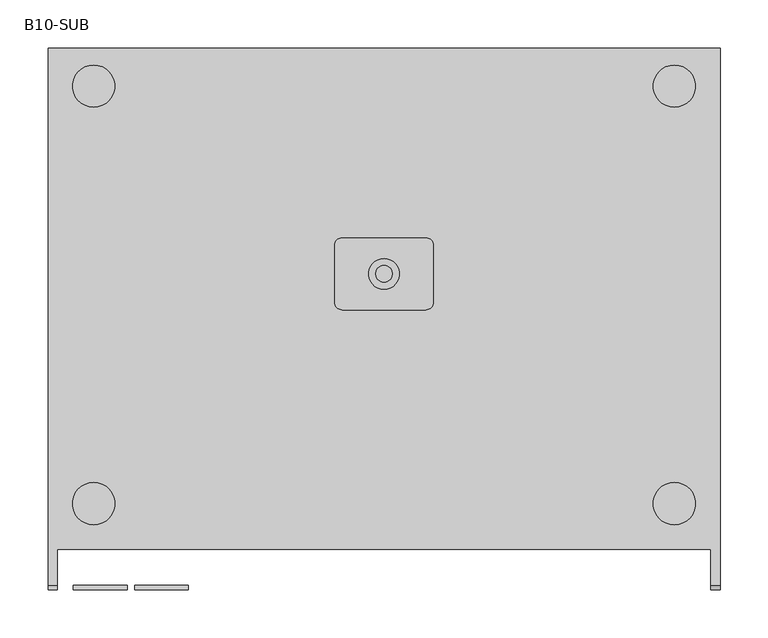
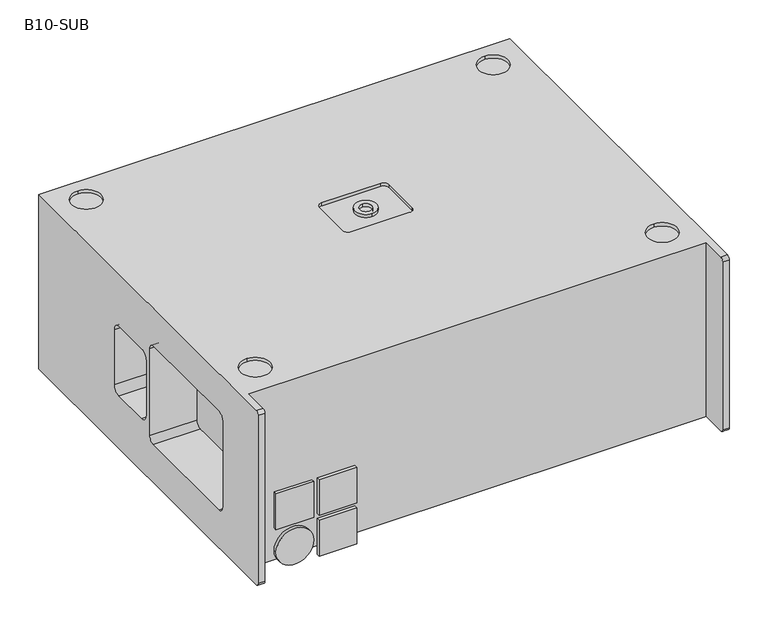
"""IFC4 building model written with IfcOpenShell, lengths in millimetres: proxy geometry, d&b B10-SUB : B10-SUB."""

from ifc_helpers import new_model, si_unit, point, frame, frame_2d, origin, origin_with_axes, place, context, project, spatial, polyline, circle_curve, trimmed, segment, composite_curve, outline, extrude, source, transform, mapped, element, save
from ifc_brep_helpers import plane_surface, cylinder_surface, revolved_surface, advanced_brep


def b10_sub_703a699e(model_context):
    return source(origin(), model_context, "Body", "SolidModel", [
        advanced_brep(
        [(2852.5, 504.2505973, 279.0), (2152.5, 504.2505973, 279.0), (2152.5, -55.7494027, 279.0), (2162.3, -55.7494027, 279.0), (2162.3, -18.2494027, 279.0), (2842.7, -18.2494027, 279.0), (2842.7, -55.7494027, 279.0), (2852.5, -55.7494027, 279.0), (2459.0, 306.2505973, 279.0), (2546.0, 306.2505973, 279.0), (2554.0, 298.2505973, 279.0), (2554.0, 239.2505973, 279.0), (2546.0, 231.2505973, 279.0), (2459.0, 231.2505973, 279.0), (2451.0, 239.2505973, 279.0), (2451.0, 298.2505973, 279.0), (2200.0, 7.2505973, 279.0), (2200.0, 51.2505973, 279.0), (2200.0, 442.4754449, 279.0), (2200.0, 486.4754449, 279.0), (2805.0, 7.2505973, 279.0), (2805.0, 51.2505973, 279.0), (2805.0, 442.4754449, 279.0), (2805.0, 486.4754449, 279.0), (2782.5, 218.2505973, 210.25), (2782.5, 209.2505973, 219.25), (2782.5, 40.2505973, 219.25), (2782.5, 31.2505973, 210.25), (2782.5, 31.2505973, 73.75), (2782.5, 40.2505973, 64.75), (2782.5, 209.2505973, 64.75), (2782.5, 218.2505973, 73.75), (2782.5, 309.2505973, 185.5), (2782.5, 298.2505973, 196.5), (2782.5, 239.2505973, 196.5), (2782.5, 228.2505973, 185.5), (2782.5, 228.2505973, 98.5), (2782.5, 239.2505973, 87.5), (2782.5, 298.2505973, 87.5), (2782.5, 309.2505973, 98.5), (2222.5, 209.2505973, 219.25), (2222.5, 218.2505973, 210.25), (2222.5, 218.2505973, 73.75), (2222.5, 209.2505973, 64.75), (2222.5, 40.2505973, 64.75), (2222.5, 31.2505973, 73.75), (2222.5, 31.2505973, 210.25), (2222.5, 40.2505973, 219.25), (2222.5, 298.2505973, 196.5), (2222.5, 309.2505973, 185.5), (2222.5, 309.2505973, 98.5), (2222.5, 298.2505973, 87.5), (2222.5, 239.2505973, 87.5), (2222.5, 228.2505973, 98.5), (2222.5, 228.2505973, 185.5), (2222.5, 239.2505973, 196.5), (2152.5, 504.2505973, 5.0), (2152.5, -55.7494027, 5.0), (2152.5, -60.7494027, 10.0), (2152.5, -60.7494027, 274.0), (2152.5, 209.2505973, 219.25), (2152.5, 40.2505973, 219.25), (2152.5, 31.2505973, 210.25), (2152.5, 31.2505973, 73.75), (2152.5, 40.2505973, 64.75), (2152.5, 209.2505973, 64.75), (2152.5, 218.2505973, 73.75), (2152.5, 218.2505973, 210.25), (2152.5, 298.2505973, 196.5), (2152.5, 239.2505973, 196.5), (2152.5, 228.2505973, 185.5), (2152.5, 228.2505973, 98.5), (2152.5, 239.2505973, 87.5), (2152.5, 298.2505973, 87.5), (2152.5, 309.2505973, 98.5), (2152.5, 309.2505973, 185.5), (2162.3, -18.2494027, 5.0), (2842.7, -18.2494027, 5.0), (2162.3, -60.7494027, 10.0), (2162.3, -60.7494027, 274.0), (2263.0, 499.2505973, 250.5), (2306.0, 499.2505973, 250.5), (2316.5, 499.2505973, 240.0), (2316.5, 499.2505973, 140.0), (2306.0, 499.2505973, 129.5), (2263.0, 499.2505973, 129.5), (2252.5, 499.2505973, 140.0), (2252.5, 499.2505973, 240.0), (2191.0, 499.2505973, 250.5), (2234.0, 499.2505973, 250.5), (2244.5, 499.2505973, 240.0), (2244.5, 499.2505973, 140.0), (2234.0, 499.2505973, 129.5), (2191.0, 499.2505973, 129.5), (2180.5, 499.2505973, 140.0), (2180.5, 499.2505973, 240.0), (2263.0, 504.2505973, 250.5), (2306.0, 504.2505973, 250.5), (2316.5, 504.2505973, 240.0), (2316.5, 504.2505973, 140.0), (2306.0, 504.2505973, 129.5), (2263.0, 504.2505973, 129.5), (2252.5, 504.2505973, 140.0), (2252.5, 504.2505973, 240.0), (2852.5, -55.7494027, 5.0), (2842.7, -55.7494027, 5.0), (2162.3, -55.7494027, 5.0), (2852.5, 504.2505973, 5.0), (2234.0, 504.2505973, 250.5), (2191.0, 504.2505973, 250.5), (2180.5, 504.2505973, 240.0), (2180.5, 504.2505973, 140.0), (2191.0, 504.2505973, 129.5), (2234.0, 504.2505973, 129.5), (2244.5, 504.2505973, 140.0), (2244.5, 504.2505973, 240.0), (2546.0, 306.2505973, 274.0), (2459.0, 306.2505973, 274.0), (2451.0, 298.2505973, 274.0), (2451.0, 239.2505973, 274.0), (2459.0, 231.2505973, 274.0), (2546.0, 231.2505973, 274.0), (2554.0, 239.2505973, 274.0), (2554.0, 298.2505973, 274.0), (2200.0, 51.2505973, 274.0), (2200.0, 7.2505973, 274.0), (2200.0, 486.4754449, 274.0), (2200.0, 442.4754449, 274.0), (2842.7, -60.7494027, 10.0), (2842.7, -60.7494027, 274.0), (2852.5, -60.7494027, 274.0), (2852.5, -60.7494027, 10.0), (2852.5, 209.2505973, 219.25), (2852.5, 218.2505973, 210.25), (2852.5, 218.2505973, 73.75), (2852.5, 209.2505973, 64.75), (2852.5, 40.2505973, 64.75), (2852.5, 31.2505973, 73.75), (2852.5, 31.2505973, 210.25), (2852.5, 40.2505973, 219.25), (2852.5, 298.2505973, 196.5), (2852.5, 309.2505973, 185.5), (2852.5, 309.2505973, 98.5), (2852.5, 298.2505973, 87.5), (2852.5, 239.2505973, 87.5), (2852.5, 228.2505973, 98.5), (2852.5, 228.2505973, 185.5), (2852.5, 239.2505973, 196.5), (2805.0, 7.2505973, 274.0), (2805.0, 51.2505973, 274.0), (2805.0, 442.4754449, 274.0), (2805.0, 486.4754449, 274.0)],
        [
            (0, 1),
            (1, 2),
            (2, 3),
            (3, 4),
            (4, 5),
            (5, 6),
            (6, 7),
            (7, 0),
            (8, 9),
            (9, 10, circle_curve(frame((2546.0, 298.2505973, 279.0), z_axis=(0.0, 0.0, -1.0), x_axis=(0.0, 1.0, 0.0)), 8.0)),
            (10, 11),
            (11, 12, circle_curve(frame((2546.0, 239.2505973, 279.0), z_axis=(0.0, 0.0, -1.0), x_axis=(0.0, 1.0, 0.0)), 8.0)),
            (12, 13),
            (13, 14, circle_curve(frame((2459.0, 239.2505973, 279.0), z_axis=(0.0, 0.0, -1.0), x_axis=(0.0, 1.0, 0.0)), 8.0)),
            (14, 15),
            (15, 8, circle_curve(frame((2459.0, 298.2505973, 279.0), z_axis=(0.0, 0.0, -1.0), x_axis=(0.0, 1.0, 0.0)), 8.0)),
            (16, 17, circle_curve(frame((2200.0, 29.2505973, 279.0), z_axis=(0.0, 0.0, -1.0), x_axis=(0.0, 1.0, 0.0)), 22.0)),
            (17, 16, circle_curve(frame((2200.0, 29.2505973, 279.0), z_axis=(0.0, 0.0, -1.0), x_axis=(0.0, 1.0, 0.0)), 22.0)),
            (18, 19, circle_curve(frame((2200.0, 464.4754449, 279.0), z_axis=(0.0, 0.0, -1.0), x_axis=(0.0, 1.0, 0.0)), 22.0)),
            (19, 18, circle_curve(frame((2200.0, 464.4754449, 279.0), z_axis=(0.0, 0.0, -1.0), x_axis=(0.0, 1.0, 0.0)), 22.0)),
            (20, 21, circle_curve(frame((2805.0, 29.2505973, 279.0), z_axis=(0.0, 0.0, -1.0), x_axis=(0.0, 1.0, 0.0)), 22.0)),
            (21, 20, circle_curve(frame((2805.0, 29.2505973, 279.0), z_axis=(0.0, 0.0, -1.0), x_axis=(0.0, 1.0, 0.0)), 22.0)),
            (22, 23, circle_curve(frame((2805.0, 464.4754449, 279.0), z_axis=(0.0, 0.0, -1.0), x_axis=(0.0, 1.0, 0.0)), 22.0)),
            (23, 22, circle_curve(frame((2805.0, 464.4754449, 279.0), z_axis=(0.0, 0.0, -1.0), x_axis=(0.0, 1.0, 0.0)), 22.0)),
            (24, 25, circle_curve(frame((2782.5, 209.2505973, 210.25), z_axis=(1.0, 0.0, 0.0), x_axis=(0.0, 0.0, 1.0)), 9.0)),
            (25, 26),
            (26, 27, circle_curve(frame((2782.5, 40.2505973, 210.25), z_axis=(1.0, 0.0, 0.0), x_axis=(0.0, 0.0, 1.0)), 9.0)),
            (27, 28),
            (28, 29, circle_curve(frame((2782.5, 40.2505973, 73.75), z_axis=(1.0, 0.0, 0.0), x_axis=(0.0, 0.0, 1.0)), 9.0)),
            (29, 30),
            (30, 31, circle_curve(frame((2782.5, 209.2505973, 73.75), z_axis=(1.0, 0.0, 0.0), x_axis=(0.0, 0.0, 1.0)), 9.0)),
            (31, 24),
            (32, 33, circle_curve(frame((2782.5, 298.2505973, 185.5), z_axis=(1.0, 0.0, 0.0), x_axis=(0.0, 0.0, 1.0)), 11.0)),
            (33, 34),
            (34, 35, circle_curve(frame((2782.5, 239.2505973, 185.5), z_axis=(1.0, 0.0, 0.0), x_axis=(0.0, 0.0, 1.0)), 11.0)),
            (35, 36),
            (36, 37, circle_curve(frame((2782.5, 239.2505973, 98.5), z_axis=(1.0, 0.0, 0.0), x_axis=(0.0, 0.0, 1.0)), 11.0)),
            (37, 38),
            (38, 39, circle_curve(frame((2782.5, 298.2505973, 98.5), z_axis=(1.0, 0.0, 0.0), x_axis=(0.0, 0.0, 1.0)), 11.0)),
            (39, 32),
            (40, 41, circle_curve(frame((2222.5, 209.2505973, 210.25), z_axis=(-1.0, 0.0, 0.0), x_axis=(0.0, 0.0, 1.0)), 9.0)),
            (41, 42),
            (42, 43, circle_curve(frame((2222.5, 209.2505973, 73.75), z_axis=(-1.0, 0.0, 0.0), x_axis=(0.0, 0.0, 1.0)), 9.0)),
            (43, 44),
            (44, 45, circle_curve(frame((2222.5, 40.2505973, 73.75), z_axis=(-1.0, 0.0, 0.0), x_axis=(0.0, 0.0, 1.0)), 9.0)),
            (45, 46),
            (46, 47, circle_curve(frame((2222.5, 40.2505973, 210.25), z_axis=(-1.0, 0.0, 0.0), x_axis=(0.0, 0.0, 1.0)), 9.0)),
            (47, 40),
            (48, 49, circle_curve(frame((2222.5, 298.2505973, 185.5), z_axis=(-1.0, 0.0, 0.0), x_axis=(0.0, 0.0, 1.0)), 11.0)),
            (49, 50),
            (50, 51, circle_curve(frame((2222.5, 298.2505973, 98.5), z_axis=(-1.0, 0.0, 0.0), x_axis=(0.0, 0.0, 1.0)), 11.0)),
            (51, 52),
            (52, 53, circle_curve(frame((2222.5, 239.2505973, 98.5), z_axis=(-1.0, 0.0, 0.0), x_axis=(0.0, 0.0, 1.0)), 11.0)),
            (53, 54),
            (54, 55, circle_curve(frame((2222.5, 239.2505973, 185.5), z_axis=(-1.0, 0.0, 0.0), x_axis=(0.0, 0.0, 1.0)), 11.0)),
            (55, 48),
            (1, 56),
            (56, 57),
            (57, 58, circle_curve(frame((2152.5, -55.7494027, 10.0), z_axis=(-1.0, 0.0, 0.0), x_axis=(0.0, 0.0, 1.0)), 5.0)),
            (58, 59),
            (59, 2, circle_curve(frame((2152.5, -55.7494027, 274.0), z_axis=(-1.0, 0.0, 0.0), x_axis=(0.0, 0.0, 1.0)), 5.0)),
            (60, 61),
            (61, 62, circle_curve(frame((2152.5, 40.2505973, 210.25), z_axis=(1.0, 0.0, 0.0), x_axis=(0.0, 0.0, 1.0)), 9.0)),
            (62, 63),
            (63, 64, circle_curve(frame((2152.5, 40.2505973, 73.75), z_axis=(1.0, 0.0, 0.0), x_axis=(0.0, 0.0, 1.0)), 9.0)),
            (64, 65),
            (65, 66, circle_curve(frame((2152.5, 209.2505973, 73.75), z_axis=(1.0, 0.0, 0.0), x_axis=(0.0, 0.0, 1.0)), 9.0)),
            (66, 67),
            (67, 60, circle_curve(frame((2152.5, 209.2505973, 210.25), z_axis=(1.0, 0.0, 0.0), x_axis=(0.0, 0.0, 1.0)), 9.0)),
            (68, 69),
            (69, 70, circle_curve(frame((2152.5, 239.2505973, 185.5), z_axis=(1.0, 0.0, 0.0), x_axis=(0.0, 0.0, 1.0)), 11.0)),
            (70, 71),
            (71, 72, circle_curve(frame((2152.5, 239.2505973, 98.5), z_axis=(1.0, 0.0, 0.0), x_axis=(0.0, 0.0, 1.0)), 11.0)),
            (72, 73),
            (73, 74, circle_curve(frame((2152.5, 298.2505973, 98.5), z_axis=(1.0, 0.0, 0.0), x_axis=(0.0, 0.0, 1.0)), 11.0)),
            (74, 75),
            (75, 68, circle_curve(frame((2152.5, 298.2505973, 185.5), z_axis=(1.0, 0.0, 0.0), x_axis=(0.0, 0.0, 1.0)), 11.0)),
            (4, 76),
            (76, 77),
            (77, 5),
            (67, 41),
            (40, 60),
            (66, 42),
            (65, 43),
            (64, 44),
            (63, 45),
            (62, 46),
            (61, 47),
            (58, 78),
            (78, 79),
            (79, 59),
            (80, 81),
            (81, 82, circle_curve(frame((2306.0, 499.2505973, 240.0), z_axis=(0.0, 1.0, 0.0), x_axis=(-1.0, 0.0, 0.0)), 10.5)),
            (82, 83),
            (83, 84, circle_curve(frame((2306.0, 499.2505973, 140.0), z_axis=(0.0, 1.0, 0.0), x_axis=(-1.0, 0.0, 0.0)), 10.5)),
            (84, 85),
            (85, 86, circle_curve(frame((2263.0, 499.2505973, 140.0), z_axis=(0.0, 1.0, 0.0), x_axis=(-1.0, 0.0, 0.0)), 10.5)),
            (86, 87),
            (87, 80, circle_curve(frame((2263.0, 499.2505973, 240.0), z_axis=(0.0, 1.0, 0.0), x_axis=(-1.0, 0.0, 0.0)), 10.5)),
            (88, 89),
            (89, 90, circle_curve(frame((2234.0, 499.2505973, 240.0), z_axis=(0.0, 1.0, 0.0), x_axis=(-1.0, 0.0, 0.0)), 10.5)),
            (90, 91),
            (91, 92, circle_curve(frame((2234.0, 499.2505973, 140.0), z_axis=(0.0, 1.0, 0.0), x_axis=(-1.0, 0.0, 0.0)), 10.5)),
            (92, 93),
            (93, 94, circle_curve(frame((2191.0, 499.2505973, 140.0), z_axis=(0.0, 1.0, 0.0), x_axis=(-1.0, 0.0, 0.0)), 10.5)),
            (94, 95),
            (95, 88, circle_curve(frame((2191.0, 499.2505973, 240.0), z_axis=(0.0, 1.0, 0.0), x_axis=(-1.0, 0.0, 0.0)), 10.5)),
            (80, 96),
            (96, 97),
            (97, 81),
            (97, 98, circle_curve(frame((2306.0, 504.2505973, 240.0), z_axis=(0.0, 1.0, 0.0), x_axis=(-1.0, 0.0, 0.0)), 10.5)),
            (98, 82),
            (98, 99),
            (99, 83),
            (99, 100, circle_curve(frame((2306.0, 504.2505973, 140.0), z_axis=(0.0, 1.0, 0.0), x_axis=(-1.0, 0.0, 0.0)), 10.5)),
            (100, 84),
            (100, 101),
            (101, 85),
            (101, 102, circle_curve(frame((2263.0, 504.2505973, 140.0), z_axis=(0.0, 1.0, 0.0), x_axis=(-1.0, 0.0, 0.0)), 10.5)),
            (102, 86),
            (102, 103),
            (103, 87),
            (103, 96, circle_curve(frame((2263.0, 504.2505973, 240.0), z_axis=(0.0, 1.0, 0.0), x_axis=(-1.0, 0.0, 0.0)), 10.5)),
            (104, 105),
            (105, 77),
            (76, 106),
            (106, 57),
            (56, 107),
            (107, 104),
            (0, 107),
            (108, 109),
            (109, 110, circle_curve(frame((2191.0, 504.2505973, 240.0), z_axis=(0.0, -1.0, 0.0), x_axis=(-1.0, 0.0, 0.0)), 10.5)),
            (110, 111),
            (111, 112, circle_curve(frame((2191.0, 504.2505973, 140.0), z_axis=(0.0, -1.0, 0.0), x_axis=(-1.0, 0.0, 0.0)), 10.5)),
            (112, 113),
            (113, 114, circle_curve(frame((2234.0, 504.2505973, 140.0), z_axis=(0.0, -1.0, 0.0), x_axis=(-1.0, 0.0, 0.0)), 10.5)),
            (114, 115),
            (115, 108, circle_curve(frame((2234.0, 504.2505973, 240.0), z_axis=(0.0, -1.0, 0.0), x_axis=(-1.0, 0.0, 0.0)), 10.5)),
            (116, 117),
            (117, 118, circle_curve(frame((2459.0, 298.2505973, 274.0), z_axis=(0.0, 0.0, 1.0), x_axis=(0.0, 1.0, 0.0)), 8.0)),
            (118, 119),
            (119, 120, circle_curve(frame((2459.0, 239.2505973, 274.0), z_axis=(0.0, 0.0, 1.0), x_axis=(0.0, 1.0, 0.0)), 8.0)),
            (120, 121),
            (121, 122, circle_curve(frame((2546.0, 239.2505973, 274.0), z_axis=(0.0, 0.0, 1.0), x_axis=(0.0, 1.0, 0.0)), 8.0)),
            (122, 123),
            (123, 116, circle_curve(frame((2546.0, 298.2505973, 274.0), z_axis=(0.0, 0.0, 1.0), x_axis=(0.0, 1.0, 0.0)), 8.0)),
            (124, 125, circle_curve(frame((2200.0, 29.2505973, 274.0), z_axis=(0.0, 0.0, 1.0), x_axis=(0.0, 1.0, 0.0)), 22.0)),
            (125, 124, circle_curve(frame((2200.0, 29.2505973, 274.0), z_axis=(0.0, 0.0, 1.0), x_axis=(0.0, 1.0, 0.0)), 22.0)),
            (126, 127, circle_curve(frame((2200.0, 464.4754449, 274.0), z_axis=(0.0, 0.0, 1.0), x_axis=(0.0, 1.0, 0.0)), 22.0)),
            (127, 126, circle_curve(frame((2200.0, 464.4754449, 274.0), z_axis=(0.0, 0.0, 1.0), x_axis=(0.0, 1.0, 0.0)), 22.0)),
            (75, 49),
            (48, 68),
            (74, 50),
            (73, 51),
            (72, 52),
            (71, 53),
            (70, 54),
            (69, 55),
            (88, 109),
            (108, 89),
            (115, 90),
            (114, 91),
            (113, 92),
            (112, 93),
            (111, 94),
            (110, 95),
            (8, 117),
            (116, 9),
            (123, 10),
            (122, 11),
            (121, 12),
            (120, 13),
            (119, 14),
            (118, 15),
            (16, 125),
            (124, 17),
            (18, 127),
            (126, 19),
            (3, 79, circle_curve(frame((2162.3, -55.7494027, 274.0), z_axis=(1.0, 0.0, 0.0), x_axis=(0.0, 0.0, 1.0)), 5.0)),
            (78, 106, circle_curve(frame((2162.3, -55.7494027, 10.0), z_axis=(1.0, 0.0, 0.0), x_axis=(0.0, 0.0, 1.0)), 5.0)),
            (105, 128, circle_curve(frame((2842.7, -55.7494027, 10.0), z_axis=(-1.0, 0.0, 0.0), x_axis=(0.0, 0.0, 1.0)), 5.0)),
            (128, 129),
            (129, 6, circle_curve(frame((2842.7, -55.7494027, 274.0), z_axis=(-1.0, 0.0, 0.0), x_axis=(0.0, 0.0, 1.0)), 5.0)),
            (7, 130, circle_curve(frame((2852.5, -55.7494027, 274.0), z_axis=(1.0, 0.0, 0.0), x_axis=(0.0, 0.0, 1.0)), 5.0)),
            (130, 131),
            (131, 104, circle_curve(frame((2852.5, -55.7494027, 10.0), z_axis=(1.0, 0.0, 0.0), x_axis=(0.0, 0.0, 1.0)), 5.0)),
            (132, 133, circle_curve(frame((2852.5, 209.2505973, 210.25), z_axis=(-1.0, 0.0, 0.0), x_axis=(0.0, 0.0, 1.0)), 9.0)),
            (133, 134),
            (134, 135, circle_curve(frame((2852.5, 209.2505973, 73.75), z_axis=(-1.0, 0.0, 0.0), x_axis=(0.0, 0.0, 1.0)), 9.0)),
            (135, 136),
            (136, 137, circle_curve(frame((2852.5, 40.2505973, 73.75), z_axis=(-1.0, 0.0, 0.0), x_axis=(0.0, 0.0, 1.0)), 9.0)),
            (137, 138),
            (138, 139, circle_curve(frame((2852.5, 40.2505973, 210.25), z_axis=(-1.0, 0.0, 0.0), x_axis=(0.0, 0.0, 1.0)), 9.0)),
            (139, 132),
            (140, 141, circle_curve(frame((2852.5, 298.2505973, 185.5), z_axis=(-1.0, 0.0, 0.0), x_axis=(0.0, 0.0, 1.0)), 11.0)),
            (141, 142),
            (142, 143, circle_curve(frame((2852.5, 298.2505973, 98.5), z_axis=(-1.0, 0.0, 0.0), x_axis=(0.0, 0.0, 1.0)), 11.0)),
            (143, 144),
            (144, 145, circle_curve(frame((2852.5, 239.2505973, 98.5), z_axis=(-1.0, 0.0, 0.0), x_axis=(0.0, 0.0, 1.0)), 11.0)),
            (145, 146),
            (146, 147, circle_curve(frame((2852.5, 239.2505973, 185.5), z_axis=(-1.0, 0.0, 0.0), x_axis=(0.0, 0.0, 1.0)), 11.0)),
            (147, 140),
            (20, 148),
            (148, 149, circle_curve(frame((2805.0, 29.2505973, 274.0), z_axis=(0.0, 0.0, -1.0), x_axis=(0.0, 1.0, 0.0)), 22.0)),
            (149, 21),
            (149, 148, circle_curve(frame((2805.0, 29.2505973, 274.0), z_axis=(0.0, 0.0, -1.0), x_axis=(0.0, 1.0, 0.0)), 22.0)),
            (22, 150),
            (150, 151, circle_curve(frame((2805.0, 464.4754449, 274.0), z_axis=(0.0, 0.0, -1.0), x_axis=(0.0, 1.0, 0.0)), 22.0)),
            (151, 23),
            (151, 150, circle_curve(frame((2805.0, 464.4754449, 274.0), z_axis=(0.0, 0.0, -1.0), x_axis=(0.0, 1.0, 0.0)), 22.0)),
            (130, 129),
            (128, 131),
            (132, 25),
            (24, 133),
            (31, 134),
            (30, 135),
            (29, 136),
            (28, 137),
            (27, 138),
            (26, 139),
            (140, 33),
            (32, 141),
            (39, 142),
            (38, 143),
            (37, 144),
            (36, 145),
            (35, 146),
            (34, 147),
        ],
        [
            plane_surface(frame((2152.5, 504.2505973, 279.0), z_axis=(0.0, 0.0, 1.0), x_axis=(-1.0, 0.0, 0.0))),
            plane_surface(frame((2782.5, -18.2494027, 274.0), z_axis=(1.0, 0.0, 0.0), x_axis=(0.0, 0.0, -1.0))),
            plane_surface(frame((2222.5, 504.2505973, 274.0), z_axis=(-1.0, 0.0, 0.0), x_axis=(0.0, 0.0, -1.0))),
            plane_surface(frame((2152.5, -18.2494027, 5.0), z_axis=(-1.0, 0.0, 0.0), x_axis=(0.0, 0.0, 1.0))),
            plane_surface(frame((2222.5, -18.2494027, 274.0), z_axis=(0.0, -1.0, 0.0), x_axis=(-1.0, 0.0, 0.0))),
            revolved_surface(polyline([(2152.5, 209.2505973, 219.25), (2222.5, 209.2505973, 219.25)]), (2152.5, 209.2505973, 210.25), (-1.0, 0.0, 0.0)),
            plane_surface(frame((2222.5, 218.2505973, 210.25), z_axis=(0.0, -1.0, 0.0), x_axis=(-1.0, 0.0, 0.0))),
            revolved_surface(polyline([(2152.5, 209.2505973, 82.75), (2222.5, 209.2505973, 82.75)]), (2152.5, 209.2505973, 73.75), (-1.0, 0.0, 0.0)),
            plane_surface(frame((2222.5, 209.2505973, 64.75), z_axis=(0.0, 0.0, 1.0), x_axis=(-1.0, 0.0, 0.0))),
            revolved_surface(polyline([(2152.5, 40.2505973, 82.75), (2222.5, 40.2505973, 82.75)]), (2152.5, 40.2505973, 73.75), (-1.0, 0.0, 0.0)),
            plane_surface(frame((2222.5, 31.2505973, 73.75), z_axis=(0.0, 1.0, 0.0), x_axis=(-1.0, 0.0, 0.0))),
            revolved_surface(polyline([(2152.5, 40.2505973, 219.25), (2222.5, 40.2505973, 219.25)]), (2152.5, 40.2505973, 210.25), (-1.0, 0.0, 0.0)),
            plane_surface(frame((2222.5, 40.2505973, 219.25), z_axis=(0.0, 0.0, -1.0), x_axis=(-1.0, 0.0, 0.0))),
            plane_surface(frame((2162.3, -60.7494027, 274.0), z_axis=(0.0, -1.0, 0.0), x_axis=(-1.0, 0.0, 0.0))),
            plane_surface(frame((2306.5, 499.2505973, 250.5), z_axis=(0.0, 1.0, 0.0), x_axis=(-1.0, 0.0, 0.0))),
            plane_surface(frame((2263.0, 504.2505973, 250.5), z_axis=(0.0, 0.0, -1.0), x_axis=(0.0, -1.0, 0.0))),
            revolved_surface(polyline([(2295.5, 504.2505973, 240.0), (2295.5, 499.2505973, 240.0)]), (2306.0, 499.2505973, 240.0), (0.0, 1.0, 0.0)),
            plane_surface(frame((2316.5, 504.2505973, 240.0), z_axis=(-1.0, 0.0, 0.0), x_axis=(0.0, -1.0, 0.0))),
            revolved_surface(polyline([(2295.5, 504.2505973, 140.0), (2295.5, 499.2505973, 140.0)]), (2306.0, 499.2505973, 140.0), (0.0, 1.0, 0.0)),
            plane_surface(frame((2306.0, 504.2505973, 129.5), z_axis=(0.0, 0.0, 1.0), x_axis=(0.0, -1.0, 0.0))),
            revolved_surface(polyline([(2252.5, 504.2505973, 140.0), (2252.5, 499.2505973, 140.0)]), (2263.0, 499.2505973, 140.0), (0.0, 1.0, 0.0)),
            plane_surface(frame((2252.5, 504.2505973, 140.0), z_axis=(1.0, 0.0, 0.0), x_axis=(0.0, -1.0, 0.0))),
            revolved_surface(polyline([(2252.5, 504.2505973, 240.0), (2252.5, 499.2505973, 240.0)]), (2263.0, 499.2505973, 240.0), (0.0, 1.0, 0.0)),
            plane_surface(frame((2222.5, -18.2494027, 5.0), z_axis=(0.0, 0.0, -1.0), x_axis=(-1.0, 0.0, 0.0))),
            plane_surface(frame((2222.5, 504.2505973, 5.0), z_axis=(0.0, 1.0, 0.0), x_axis=(-1.0, 0.0, 0.0))),
            plane_surface(frame((2222.5, 504.2505973, 274.0), z_axis=(0.0, 0.0, 1.0), x_axis=(-1.0, 0.0, 0.0))),
            revolved_surface(polyline([(2152.5, 298.2505973, 196.5), (2222.5, 298.2505973, 196.5)]), (2152.5, 298.2505973, 185.5), (-1.0, 0.0, 0.0)),
            plane_surface(frame((2222.5, 309.2505973, 185.5), z_axis=(0.0, -1.0, 0.0), x_axis=(-1.0, 0.0, 0.0))),
            revolved_surface(polyline([(2152.5, 298.2505973, 109.5), (2222.5, 298.2505973, 109.5)]), (2152.5, 298.2505973, 98.5), (-1.0, 0.0, 0.0)),
            plane_surface(frame((2222.5, 298.2505973, 87.5), z_axis=(0.0, 0.0, 1.0), x_axis=(-1.0, 0.0, 0.0))),
            revolved_surface(polyline([(2152.5, 239.2505973, 109.5), (2222.5, 239.2505973, 109.5)]), (2152.5, 239.2505973, 98.5), (-1.0, 0.0, 0.0)),
            plane_surface(frame((2222.5, 228.2505973, 98.5), z_axis=(0.0, 1.0, 0.0), x_axis=(-1.0, 0.0, 0.0))),
            revolved_surface(polyline([(2152.5, 239.2505973, 196.5), (2222.5, 239.2505973, 196.5)]), (2152.5, 239.2505973, 185.5), (-1.0, 0.0, 0.0)),
            plane_surface(frame((2222.5, 239.2505973, 196.5), z_axis=(0.0, 0.0, -1.0), x_axis=(-1.0, 0.0, 0.0))),
            plane_surface(frame((2191.0, 504.2505973, 250.5), z_axis=(0.0, 0.0, -1.0), x_axis=(0.0, -1.0, 0.0))),
            revolved_surface(polyline([(2223.5, 504.2505973, 240.0), (2223.5, 499.2505973, 240.0)]), (2234.0, 504.2505973, 240.0), (0.0, 1.0, 0.0)),
            plane_surface(frame((2244.5, 504.2505973, 240.0), z_axis=(-1.0, 0.0, 0.0), x_axis=(0.0, -1.0, 0.0))),
            revolved_surface(polyline([(2223.5, 504.2505973, 140.0), (2223.5, 499.2505973, 140.0)]), (2234.0, 504.2505973, 140.0), (0.0, 1.0, 0.0)),
            plane_surface(frame((2234.0, 504.2505973, 129.5), z_axis=(0.0, 0.0, 1.0), x_axis=(0.0, -1.0, 0.0))),
            revolved_surface(polyline([(2180.5, 504.2505973, 140.0), (2180.5, 499.2505973, 140.0)]), (2191.0, 504.2505973, 140.0), (0.0, 1.0, 0.0)),
            plane_surface(frame((2180.5, 504.2505973, 140.0), z_axis=(1.0, 0.0, 0.0), x_axis=(0.0, -1.0, 0.0))),
            revolved_surface(polyline([(2180.5, 504.2505973, 240.0), (2180.5, 499.2505973, 240.0)]), (2191.0, 504.2505973, 240.0), (0.0, 1.0, 0.0)),
            plane_surface(frame((2459.0, 306.2505973, 279.0), z_axis=(0.0, -1.0, 0.0), x_axis=(0.0, 0.0, -1.0))),
            revolved_surface(polyline([(2546.0, 306.2505973, 274.0), (2546.0, 306.2505973, 279.0)]), (2546.0, 298.2505973, 279.0), (0.0, 0.0, -1.0)),
            plane_surface(frame((2554.0, 298.2505973, 279.0), z_axis=(-1.0, 0.0, 0.0), x_axis=(0.0, 0.0, -1.0))),
            revolved_surface(polyline([(2546.0, 247.2505973, 274.0), (2546.0, 247.2505973, 279.0)]), (2546.0, 239.2505973, 279.0), (0.0, 0.0, -1.0)),
            plane_surface(frame((2546.0, 231.2505973, 279.0), z_axis=(0.0, 1.0, 0.0), x_axis=(0.0, 0.0, -1.0))),
            revolved_surface(polyline([(2459.0, 247.2505973, 274.0), (2459.0, 247.2505973, 279.0)]), (2459.0, 239.2505973, 279.0), (0.0, 0.0, -1.0)),
            plane_surface(frame((2451.0, 239.2505973, 279.0), z_axis=(1.0, 0.0, 0.0), x_axis=(0.0, 0.0, -1.0))),
            revolved_surface(polyline([(2459.0, 306.2505973, 274.0), (2459.0, 306.2505973, 279.0)]), (2459.0, 298.2505973, 279.0), (0.0, 0.0, -1.0)),
            revolved_surface(polyline([(2200.0, 51.250597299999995, 274.0), (2200.0, 51.250597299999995, 279.0)]), (2200.0, 29.2505973, 279.0), (0.0, 0.0, -1.0)),
            revolved_surface(polyline([(2200.0, 486.4754449, 274.0), (2200.0, 486.4754449, 279.0)]), (2200.0, 464.4754449, 279.0), (0.0, 0.0, -1.0)),
            plane_surface(frame((2162.3, -55.7494027, 279.0), z_axis=(1.0, 0.0, 0.0), x_axis=(0.0, 0.0, -1.0))),
            plane_surface(frame((2842.7, -18.2494027, 279.0), z_axis=(-1.0, 0.0, 0.0), x_axis=(0.0, 0.0, -1.0))),
            plane_surface(frame((2852.5, -55.7494027, 279.0), z_axis=(1.0, 0.0, 0.0), x_axis=(0.0, 0.0, -1.0))),
            revolved_surface(polyline([(2805.0, 51.250597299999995, 274.0), (2805.0, 51.250597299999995, 279.0)]), (2805.0, 29.2505973, 279.0), (0.0, 0.0, -1.0)),
            revolved_surface(polyline([(2805.0, 486.4754449, 274.0), (2805.0, 486.4754449, 279.0)]), (2805.0, 464.4754449, 279.0), (0.0, 0.0, -1.0)),
            cylinder_surface(frame((2152.5, -55.7494027, 274.0), z_axis=(1.0, 0.0, 0.0), x_axis=(0.0, 0.0, 1.0)), 5.0),
            cylinder_surface(frame((2152.5, -55.7494027, 10.0), z_axis=(1.0, 0.0, 0.0), x_axis=(0.0, 0.0, 1.0)), 5.0),
            plane_surface(frame((2842.7, -60.7494027, 10.0), z_axis=(0.0, -1.0, 0.0), x_axis=(1.0, 0.0, 0.0))),
            cylinder_surface(frame((2852.5, -55.7494027, 274.0), z_axis=(-1.0, 0.0, 0.0), x_axis=(0.0, 0.0, 1.0)), 5.0),
            cylinder_surface(frame((2852.5, -55.7494027, 10.0), z_axis=(-1.0, 0.0, 0.0), x_axis=(0.0, 0.0, 1.0)), 5.0),
            plane_surface(frame((2782.5, -18.2494027, 274.0), z_axis=(0.0, 0.0, 1.0), x_axis=(1.0, 0.0, 0.0))),
            revolved_surface(polyline([(2852.5, 209.2505973, 219.25), (2782.5, 209.2505973, 219.25)]), (2852.5, 209.2505973, 210.25), (1.0, 0.0, 0.0)),
            plane_surface(frame((2782.5, 218.2505973, 73.75), z_axis=(0.0, -1.0, 0.0), x_axis=(1.0, 0.0, 0.0))),
            revolved_surface(polyline([(2852.5, 209.2505973, 82.75), (2782.5, 209.2505973, 82.75)]), (2852.5, 209.2505973, 73.75), (1.0, 0.0, 0.0)),
            plane_surface(frame((2782.5, 40.2505973, 64.75), z_axis=(0.0, 0.0, 1.0), x_axis=(1.0, 0.0, 0.0))),
            revolved_surface(polyline([(2852.5, 40.2505973, 82.75), (2782.5, 40.2505973, 82.75)]), (2852.5, 40.2505973, 73.75), (1.0, 0.0, 0.0)),
            plane_surface(frame((2782.5, 31.2505973, 210.25), z_axis=(0.0, 1.0, 0.0), x_axis=(1.0, 0.0, 0.0))),
            revolved_surface(polyline([(2852.5, 40.2505973, 219.25), (2782.5, 40.2505973, 219.25)]), (2852.5, 40.2505973, 210.25), (1.0, 0.0, 0.0)),
            plane_surface(frame((2782.5, 209.2505973, 219.25), z_axis=(0.0, 0.0, -1.0), x_axis=(1.0, 0.0, 0.0))),
            revolved_surface(polyline([(2852.5, 298.2505973, 196.5), (2782.5, 298.2505973, 196.5)]), (2852.5, 298.2505973, 185.5), (1.0, 0.0, 0.0)),
            plane_surface(frame((2782.5, 309.2505973, 98.5), z_axis=(0.0, -1.0, 0.0), x_axis=(1.0, 0.0, 0.0))),
            revolved_surface(polyline([(2852.5, 298.2505973, 109.5), (2782.5, 298.2505973, 109.5)]), (2852.5, 298.2505973, 98.5), (1.0, 0.0, 0.0)),
            plane_surface(frame((2782.5, 239.2505973, 87.5), z_axis=(0.0, 0.0, 1.0), x_axis=(1.0, 0.0, 0.0))),
            revolved_surface(polyline([(2852.5, 239.2505973, 109.5), (2782.5, 239.2505973, 109.5)]), (2852.5, 239.2505973, 98.5), (1.0, 0.0, 0.0)),
            plane_surface(frame((2782.5, 228.2505973, 185.5), z_axis=(0.0, 1.0, 0.0), x_axis=(1.0, 0.0, 0.0))),
            revolved_surface(polyline([(2852.5, 239.2505973, 196.5), (2782.5, 239.2505973, 196.5)]), (2852.5, 239.2505973, 185.5), (1.0, 0.0, 0.0)),
            plane_surface(frame((2782.5, 298.2505973, 196.5), z_axis=(0.0, 0.0, -1.0), x_axis=(1.0, 0.0, 0.0))),
        ],
        [
            (0, [[1, 2, 3, 4, 5, 6, 7, 8], [9, 10, 11, 12, 13, 14, 15, 16], [17, 18], [19, 20], [21, 22], [23, 24]]),
            (1, [[25, 26, 27, 28, 29, 30, 31, 32]]),
            (1, [[33, 34, 35, 36, 37, 38, 39, 40]]),
            (2, [[41, 42, 43, 44, 45, 46, 47, 48]]),
            (2, [[49, 50, 51, 52, 53, 54, 55, 56]]),
            (3, [[-2, 57, 58, 59, 60, 61], [62, 63, 64, 65, 66, 67, 68, 69], [70, 71, 72, 73, 74, 75, 76, 77]]),
            (4, [[-5, 78, 79, 80]]),
            (5, [[-69, 81, -41, 82]]),
            (6, [[-68, 83, -42, -81]]),
            (7, [[-67, 84, -43, -83]]),
            (8, [[-66, 85, -44, -84]]),
            (9, [[-65, 86, -45, -85]]),
            (10, [[-64, 87, -46, -86]]),
            (11, [[-63, 88, -47, -87]]),
            (12, [[-62, -82, -48, -88]]),
            (13, [[-60, 89, 90, 91]]),
            (14, [[92, 93, 94, 95, 96, 97, 98, 99]]),
            (14, [[100, 101, 102, 103, 104, 105, 106, 107]]),
            (15, [[-92, 108, 109, 110]]),
            (16, [[-93, -110, 111, 112]]),
            (17, [[-94, -112, 113, 114]]),
            (18, [[-95, -114, 115, 116]]),
            (19, [[-96, -116, 117, 118]]),
            (20, [[-97, -118, 119, 120]]),
            (21, [[-98, -120, 121, 122]]),
            (22, [[-99, -122, 123, -108]]),
            (23, [[124, 125, -79, 126, 127, -58, 128, 129]]),
            (24, [[-128, -57, -1, 130], [-109, -123, -121, -119, -117, -115, -113, -111], [131, 132, 133, 134, 135, 136, 137, 138]]),
            (25, [[139, 140, 141, 142, 143, 144, 145, 146]]),
            (25, [[147, 148]]),
            (25, [[149, 150]]),
            (26, [[-77, 151, -49, 152]]),
            (27, [[-76, 153, -50, -151]]),
            (28, [[-75, 154, -51, -153]]),
            (29, [[-74, 155, -52, -154]]),
            (30, [[-73, 156, -53, -155]]),
            (31, [[-72, 157, -54, -156]]),
            (32, [[-71, 158, -55, -157]]),
            (33, [[-70, -152, -56, -158]]),
            (34, [[-100, 159, -131, 160]]),
            (35, [[-101, -160, -138, 161]]),
            (36, [[-102, -161, -137, 162]]),
            (37, [[-103, -162, -136, 163]]),
            (38, [[-104, -163, -135, 164]]),
            (39, [[-105, -164, -134, 165]]),
            (40, [[-106, -165, -133, 166]]),
            (41, [[-107, -166, -132, -159]]),
            (42, [[-9, 167, -139, 168]]),
            (43, [[-10, -168, -146, 169]]),
            (44, [[-11, -169, -145, 170]]),
            (45, [[-12, -170, -144, 171]]),
            (46, [[-13, -171, -143, 172]]),
            (47, [[-14, -172, -142, 173]]),
            (48, [[-15, -173, -141, 174]]),
            (49, [[-16, -174, -140, -167]]),
            (50, [[-17, 175, -147, 176]]),
            (50, [[-18, -176, -148, -175]]),
            (51, [[-19, 177, -149, 178]]),
            (51, [[-20, -178, -150, -177]]),
            (52, [[-4, 179, -90, 180, -126, -78]]),
            (53, [[-6, -80, -125, 181, 182, 183]]),
            (54, [[-130, -8, 184, 185, 186, -129], [187, 188, 189, 190, 191, 192, 193, 194], [195, 196, 197, 198, 199, 200, 201, 202]]),
            (55, [[-21, 203, 204, 205]]),
            (55, [[-22, -205, 206, -203]]),
            (56, [[-23, 207, 208, 209]]),
            (56, [[-24, -209, 210, -207]]),
            (57, [[-61, -91, -179, -3]]),
            (58, [[-59, -127, -180, -89]]),
            (59, [[-185, 211, -182, 212]]),
            (60, [[-184, -7, -183, -211]]),
            (61, [[-186, -212, -181, -124]]),
            (62, [[-204, -206]]),
            (62, [[-208, -210]]),
            (63, [[-187, 213, -25, 214]]),
            (64, [[-188, -214, -32, 215]]),
            (65, [[-189, -215, -31, 216]]),
            (66, [[-190, -216, -30, 217]]),
            (67, [[-191, -217, -29, 218]]),
            (68, [[-192, -218, -28, 219]]),
            (69, [[-193, -219, -27, 220]]),
            (70, [[-194, -220, -26, -213]]),
            (71, [[-195, 221, -33, 222]]),
            (72, [[-196, -222, -40, 223]]),
            (73, [[-197, -223, -39, 224]]),
            (74, [[-198, -224, -38, 225]]),
            (75, [[-199, -225, -37, 226]]),
            (76, [[-200, -226, -36, 227]]),
            (77, [[-201, -227, -35, 228]]),
            (78, [[-202, -228, -34, -221]]),
        ],
    ),
        extrude(outline(composite_curve([segment(trimmed(circle_curve(frame_2d((2200.0, 464.4754449)), 22.0), [point((2222.0, 464.4754449))], [point((2178.0, 464.4754449))], False, "CARTESIAN"), True, "CONTINUOUS"), segment(trimmed(circle_curve(frame_2d((2200.0, 464.4754449)), 22.0), [point((2178.0, 464.4754449))], [point((2222.0, 464.4754449))], False, "CARTESIAN"), True, "CONTINUOUS")], self_intersect=False)), origin_with_axes(), (0.0, 0.0, 1.0), 5.0),
        extrude(outline(composite_curve([segment(trimmed(circle_curve(frame_2d((2805.0, 464.4754449)), 22.0), [point((2827.0, 464.4754449))], [point((2783.0, 464.4754449))], False, "CARTESIAN"), True, "CONTINUOUS"), segment(trimmed(circle_curve(frame_2d((2805.0, 464.4754449)), 22.0), [point((2783.0, 464.4754449))], [point((2827.0, 464.4754449))], False, "CARTESIAN"), True, "CONTINUOUS")], self_intersect=False)), origin_with_axes(), (0.0, 0.0, 1.0), 5.0),
        extrude(outline(composite_curve([segment(trimmed(circle_curve(frame_2d((2200.0, 29.2505973)), 22.0), [point((2222.0, 29.2505973))], [point((2178.0, 29.2505973))], False, "CARTESIAN"), True, "CONTINUOUS"), segment(trimmed(circle_curve(frame_2d((2200.0, 29.2505973)), 22.0), [point((2178.0, 29.2505973))], [point((2222.0, 29.2505973))], False, "CARTESIAN"), True, "CONTINUOUS")], self_intersect=False)), origin_with_axes(), (0.0, 0.0, 1.0), 5.0),
        extrude(outline(composite_curve([segment(trimmed(circle_curve(frame_2d((2805.0, 29.2505973)), 22.0), [point((2827.0, 29.2505973))], [point((2783.0, 29.2505973))], False, "CARTESIAN"), True, "CONTINUOUS"), segment(trimmed(circle_curve(frame_2d((2805.0, 29.2505973)), 22.0), [point((2783.0, 29.2505973))], [point((2827.0, 29.2505973))], False, "CARTESIAN"), True, "CONTINUOUS")], self_intersect=False)), origin_with_axes(), (0.0, 0.0, 1.0), 5.0),
        extrude(outline(polyline([(2178.8, -55.7494027), (2234.8, -55.7494027), (2234.8, -60.7494027), (2178.8, -60.7494027), (2178.8, -55.7494027)])), frame((0.0, 0.0, 85.5), z_axis=(0.0, 0.0, 1.0), x_axis=(1.0, 0.0, 0.0)), (0.0, 0.0, 1.0), 56.0),
        extrude(outline(polyline([(2242.8, -55.7494027), (2298.8, -55.7494027), (2298.8, -60.7494027), (2242.8, -60.7494027), (2242.8, -55.7494027)])), frame((0.0, 0.0, 85.5), z_axis=(0.0, 0.0, 1.0), x_axis=(1.0, 0.0, 0.0)), (0.0, 0.0, 1.0), 56.0),
        extrude(outline(polyline([(2242.8, -55.7494027), (2298.8, -55.7494027), (2298.8, -60.7494027), (2242.8, -60.7494027), (2242.8, -55.7494027)])), frame((0.0, 0.0, 21.5), z_axis=(0.0, 0.0, 1.0), x_axis=(1.0, 0.0, 0.0)), (0.0, 0.0, 1.0), 56.0),
        extrude(outline(composite_curve([segment(trimmed(circle_curve(frame_2d((49.5, 2206.8)), 28.0), [point((49.5, 2234.8))], [point((49.5, 2178.8))], False, "CARTESIAN"), True, "CONTINUOUS"), segment(trimmed(circle_curve(frame_2d((49.5, 2206.8)), 28.0), [point((49.5, 2178.8))], [point((49.5, 2234.8))], False, "CARTESIAN"), True, "CONTINUOUS")], self_intersect=False)), frame((0.0, -60.7494027, 0.0), z_axis=(0.0, 1.0, 0.0), x_axis=(0.0, 0.0, 1.0)), (0.0, 0.0, 1.0), 5.0),
        extrude(outline(composite_curve([segment(trimmed(circle_curve(frame_2d((2502.5, 268.7505973)), 16.0), [point((2502.5, 252.7505973))], [point((2502.5, 284.7505973))], False, "CARTESIAN"), True, "CONTINUOUS"), segment(trimmed(circle_curve(frame_2d((2502.5, 268.7505973)), 16.0), [point((2502.5, 284.7505973))], [point((2502.5, 252.7505973))], False, "CARTESIAN"), True, "CONTINUOUS")], self_intersect=False), holes=[composite_curve([segment(trimmed(circle_curve(frame_2d((2502.5, 268.7505973)), 8.75), [point((2502.5, 260.0005973))], [point((2502.5, 277.5005973))], True, "CARTESIAN"), True, "CONTINUOUS"), segment(trimmed(circle_curve(frame_2d((2502.5, 268.7505973)), 8.75), [point((2502.5, 277.5005973))], [point((2502.5, 260.0005973))], True, "CARTESIAN"), True, "CONTINUOUS")], self_intersect=False)]), frame((0.0, 0.0, 274.0), z_axis=(0.0, 0.0, 1.0), x_axis=(1.0, 0.0, 0.0)), (0.0, 0.0, 1.0), 5.0),
    ])


if __name__ == "__main__":
    model = new_model("IFC4")
    model_context = context("Model", 3, world=origin())
    ifc_project = project(units=[si_unit("LENGTHUNIT", "METRE", prefix="MILLI")], contexts=[model_context])
    site = spatial("IfcSite", under=ifc_project)
    building = spatial("IfcBuilding", under=site)
    placement = place(None, origin())
    b10_sub_shape = b10_sub_703a699e(model_context)
    element("IfcBuildingElementProxy", 1, Name="d&b B10-SUB : B10-SUB", ObjectType="d&b B10-SUB : B10-SUB", at=placement, inside=building, context=model_context, shape_type="MappedRepresentation", body=[
        mapped(b10_sub_shape, transform((0.0, 0.0, 0.0), x_axis=(1.0, 0.0, 0.0), y_axis=(0.0, 1.0, 0.0), z_axis=(0.0, 0.0, 1.0))),
    ])
    save(model, "model.ifc")
